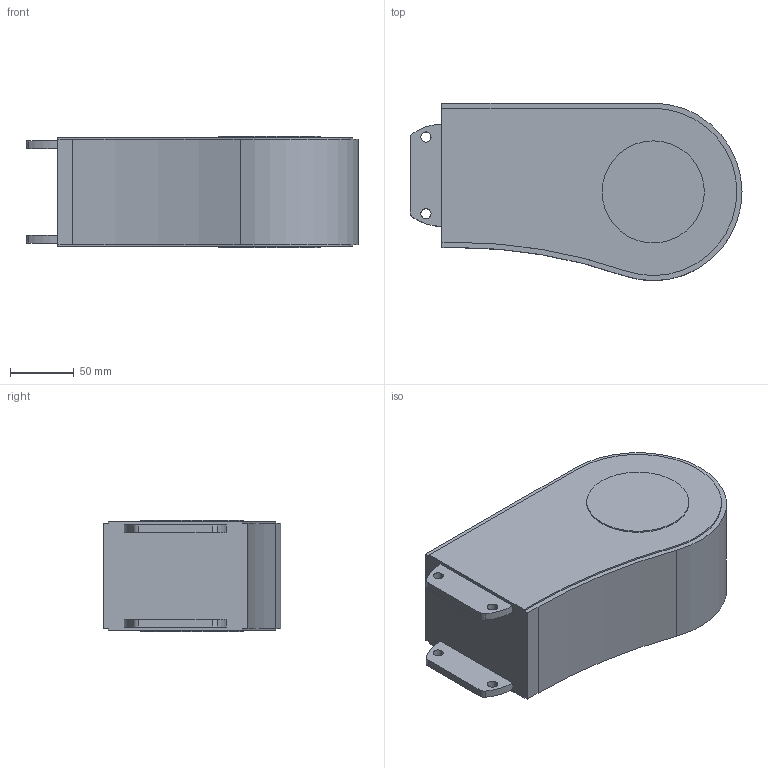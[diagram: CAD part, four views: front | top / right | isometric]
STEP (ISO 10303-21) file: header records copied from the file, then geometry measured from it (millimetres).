
FILE_DESCRIPTION (( 'STEP AP214' ), '1' );
FILE_NAME ('VC.85 Omloopsectie Z10 standaard.STEP', '2016-10-19T07:09:14', ( '' ), ( '' ), 'SwSTEP 2.0', 'SolidWorks 2016', '' );
FILE_SCHEMA (( 'AUTOMOTIVE_DESIGN' ));
Length unit declared in the file: millimetre
Products named in the file (1): VC.85 Omloopsectie Z10 standaard
Bounding box: 260 x 138.99 x 87 mm (x, y, z)
Volume: 2389749 mm3; surface area: 120686.3 mm2
Topology: 1 solids, 1 shells, 45 faces, 117 edges, 78 vertices
Faces by surface type: cylinder 26, plane 19
Entity records: 1453 total; most frequent: DIRECTION 261, CARTESIAN_POINT 241, ORIENTED_EDGE 234, EDGE_CURVE 117, AXIS2_PLACEMENT_3D 98, VERTEX_POINT 78, VECTOR 65, LINE 65
